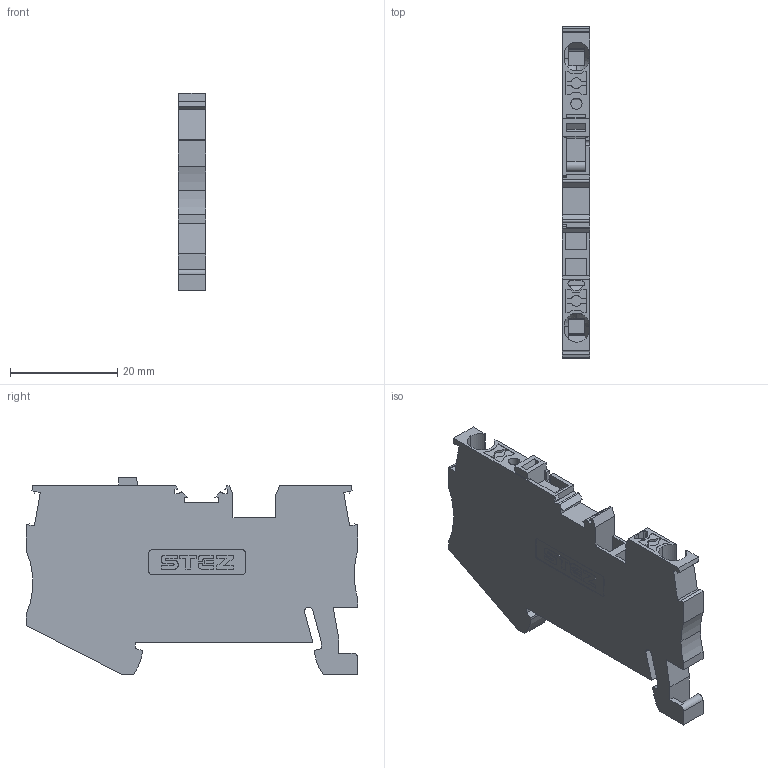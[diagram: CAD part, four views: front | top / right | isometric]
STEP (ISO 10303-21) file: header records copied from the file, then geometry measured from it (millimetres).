
FILE_DESCRIPTION(('TFLEX Exchange Step'),'2;1');
FILE_NAME('14200002_КНБ_2,5-2-РЗМ.stp', '2025-06-24T11:10:56+03:00',('MVarava'),('Unknown organisation'),'TFLEX Exchange 2023.0','T-FLEX CAD','Unknown authorisation');
FILE_SCHEMA( ('AUTOMOTIVE_DESIGN { 1 0 10303 214 1 1 1 1 }') );
Length unit declared in the file: millimetre
Products named in the file (1): Nodes
Bounding box: 5.15 x 61.9 x 36.85 mm (x, y, z)
Volume: 7894.3 mm3; surface area: 6215.9 mm2
Topology: 1 solids, 1 shells, 486 faces, 1433 edges, 956 vertices
Faces by surface type: plane 268, cylinder 206, extrusion 4, torus 4, cone 4
Full cylindrical faces by diameter (mm): 2 x1, 2.1 x1
Entity records: 17211 total; most frequent: CARTESIAN_POINT 4045, ORIENTED_EDGE 2866, DIRECTION 2654, EDGE_CURVE 1433, VERTEX_POINT 956, VECTOR 900, LINE 896, AXIS2_PLACEMENT_3D 877
